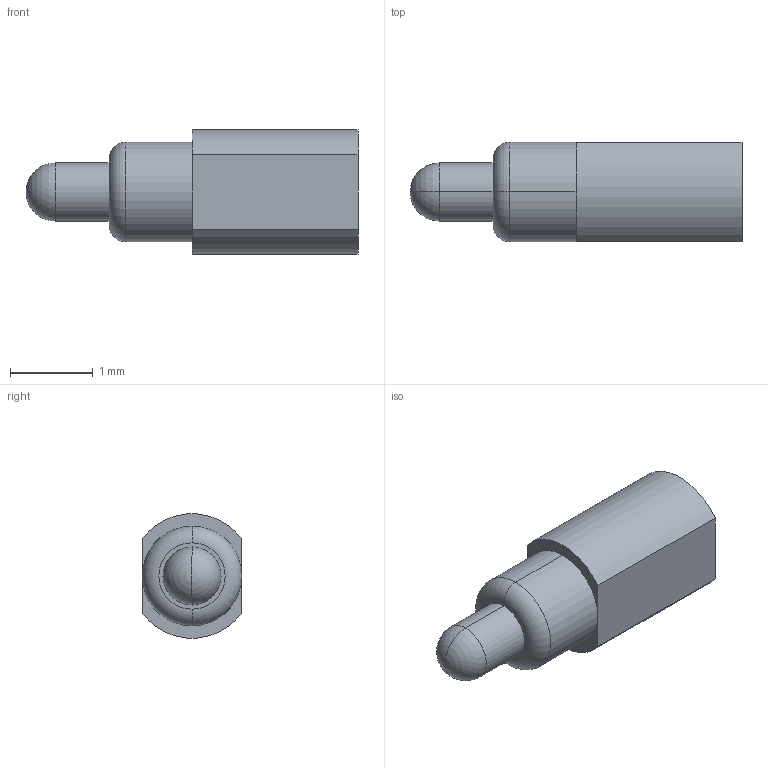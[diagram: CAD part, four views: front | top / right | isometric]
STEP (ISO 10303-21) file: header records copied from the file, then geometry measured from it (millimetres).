
FILE_DESCRIPTION((''),'2;1');
FILE_NAME('NC3733-01RA','2022-05-25T10:29:08',('USER'),(''),'CREO PARAMETRIC BY PTC INC, 2018400','CREO PARAMETRIC BY PTC INC, 2018400','');
FILE_SCHEMA(('CONFIG_CONTROL_DESIGN'));
Length unit declared in the file: millimetre
Products named in the file (1): NC3733-01RA
Bounding box: 4 x 1.2 x 1.49 mm (x, y, z)
Volume: 4.6 mm3; surface area: 17.6 mm2
Topology: 1 solids, 1 shells, 16 faces, 36 edges, 21 vertices
Faces by surface type: cylinder 6, plane 6, sphere 2, torus 2
Entity records: 476 total; most frequent: DIRECTION 86, CARTESIAN_POINT 71, ORIENTED_EDGE 68, AXIS2_PLACEMENT_3D 36, EDGE_CURVE 34, VERTEX_POINT 21, CIRCLE 20, EDGE_LOOP 17
